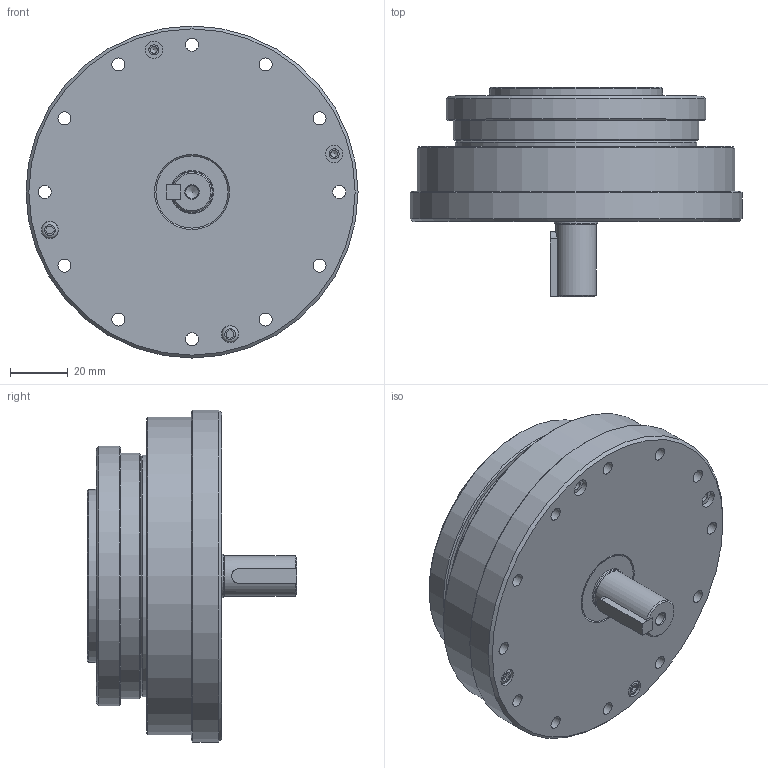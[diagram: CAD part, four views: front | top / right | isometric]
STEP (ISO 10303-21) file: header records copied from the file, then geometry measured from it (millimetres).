
FILE_DESCRIPTION(/* description */ (''),/* implementation_level */ '2;1');
FILE_NAME(/* name */ 'LHT-25-U-4',/* time_stamp */ '2017-09-16T15:49:07+08:00',/* author */ (''),/* organization */ (''),/* preprocessor_version */ 'ST-DEVELOPER v9',/* originating_system */ 'UGS - NX 4.0',/* authorisation */ '');
FILE_SCHEMA (('AUTOMOTIVE_DESIGN { 1 0 10303 214 1 1 1 1 }'));
Length unit declared in the file: millimetre
Products named in the file (1): Admi85A9d2qf
Bounding box: 115 x 72.5 x 115 mm (x, y, z)
Volume: 309873.6 mm3; surface area: 174481.5 mm2
Topology: 72 solids, 72 shells, 710 faces, 1663 edges, 1113 vertices
Faces by surface type: cylinder 311, plane 260, cone 74, torus 40, sphere 21, revolution 3, extrusion 1
Full cylindrical faces by diameter (mm): 2 x1, 2.1 x1, 2.135 x6, 2.459 x16, 2.5 x1, 2.7 x1, 3 x12, 3.432 x16, 3.5 x20, 4.351 x1, 4.5 x68, 5 x1, 5.5 x10, 5.7 x2, 6 x32, 10 x2, 13 x1, 13.5 x1, 14 x1, 14.3 x2, 15 x4, 18.3 x1, 18.5 x2, 20 x1, 20.2 x1, 22 x2, 24.5 x1, 25 x2, 26.8 x1, 28 x1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
Entity records: 18004 total; most frequent: DIRECTION 3291, CARTESIAN_POINT 2795, ORIENTED_EDGE 2118, AXIS2_PLACEMENT_3D 1519, EDGE_LOOP 1369, EDGE_CURVE 1059, FACE_BOUND 1043, VERTEX_POINT 963
